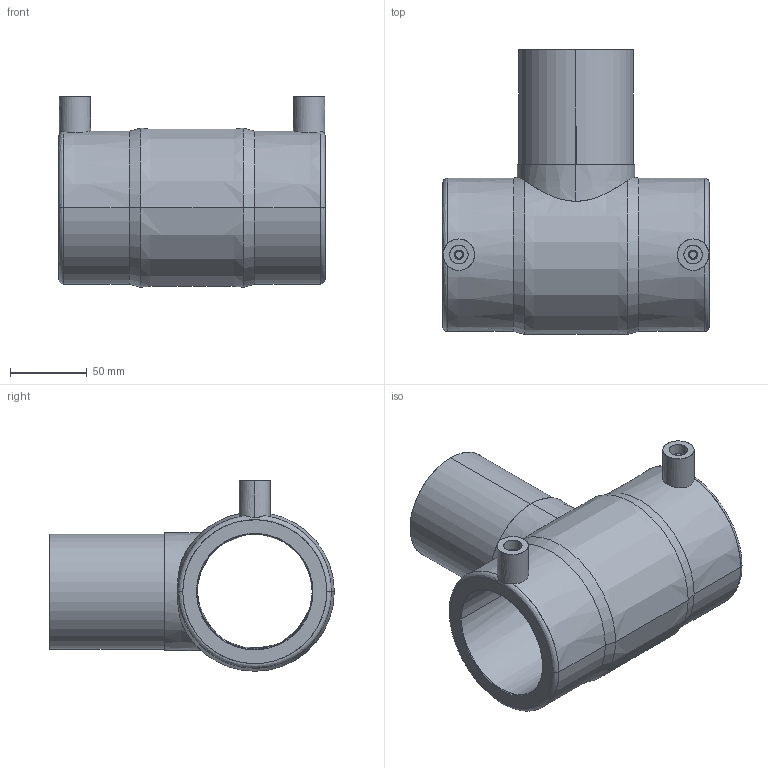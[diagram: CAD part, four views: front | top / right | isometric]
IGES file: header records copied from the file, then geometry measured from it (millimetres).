
Start section: SolidWorks IGES file using analytic representation for surfaces
Global section: file name: G:\Group\Marketing\Public\CAD Offering - Website\8. equal tee\ETBKHA75.IGS; native system: SolidWorks 2017; preprocessor: SolidWorks 2017; author: hwegrzynska; date: 180921.101126; units: millimetre
Bounding box: 174 x 186 x 124.5 mm (x, y, z)
Surface area: 142821 mm2 (no closed solid volume)
Topology: 0 solids, 0 shells, 54 faces, 1466 edges, 1466 vertices
Faces by surface type: revolution 38, bspline 16
